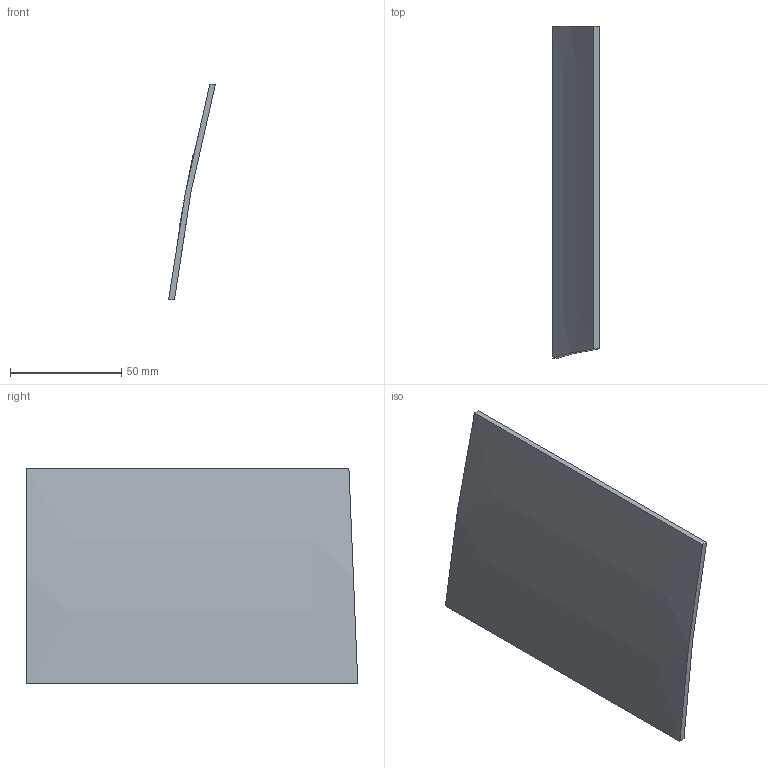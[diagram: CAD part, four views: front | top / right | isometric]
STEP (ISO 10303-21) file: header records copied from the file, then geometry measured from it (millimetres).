
FILE_DESCRIPTION(('Open CASCADE Model'),'2;1');
FILE_NAME('Open CASCADE Shape Model','2026-11-03T04:29:37',('Author'),( 'Open CASCADE'),'Open CASCADE STEP processor 7.8','Open CASCADE 7.8' ,'Unknown');
FILE_SCHEMA(('AUTOMOTIVE_DESIGN { 1 0 10303 214 1 1 1 1 }'));
Length unit declared in the file: millimetre
Products named in the file (1): Open CASCADE STEP translator 7.8 52
Bounding box: 21.02 x 149.05 x 97 mm (x, y, z)
Volume: 34961.6 mm3; surface area: 30292.1 mm2
Topology: 1 solids, 1 shells, 6 faces, 12 edges, 8 vertices
Faces by surface type: plane 4, bspline 2
Entity records: 499 total; most frequent: CARTESIAN_POINT 290, B_SPLINE_CURVE_WITH_KNOTS 28, ORIENTED_EDGE 24, PCURVE 24, DEFINITIONAL_REPRESENTATION 24, DIRECTION 18, EDGE_CURVE 12, SURFACE_CURVE 12
